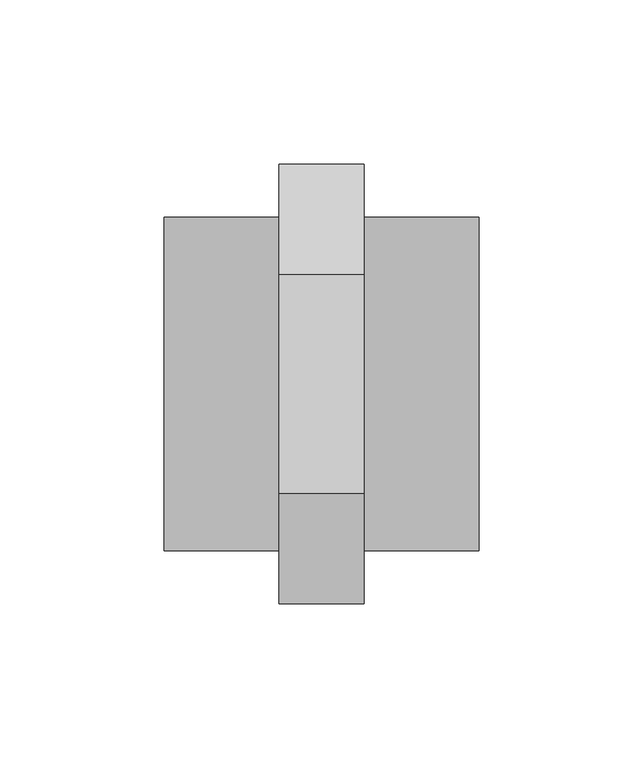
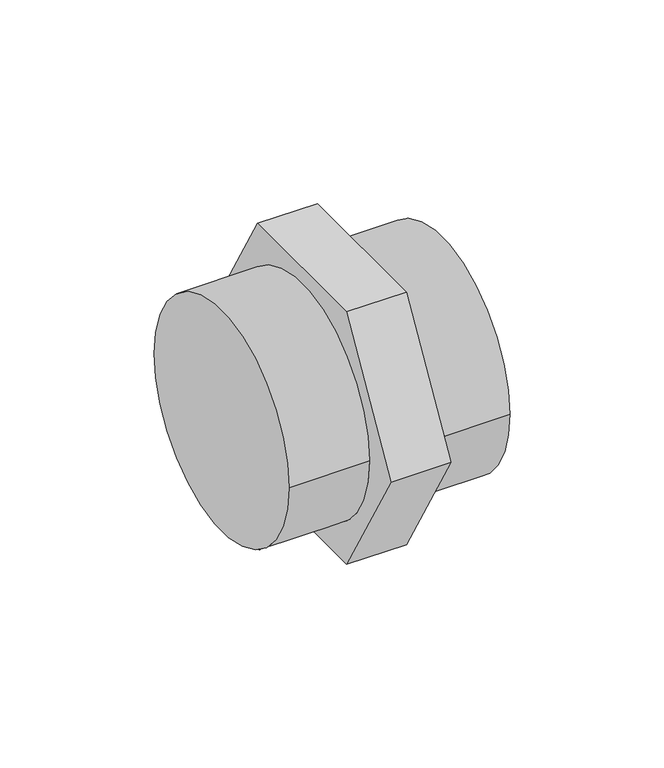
"""IFC4 building model written with IfcOpenShell, lengths in millimetres: pipe fitting geometry, 01011009 : Machones doble rosca."""

from ifc_helpers import new_model, si_unit, frame, origin, place, context, project, spatial, circle_curve, source, transform, mapped, element, save
from ifc_brep_helpers import plane_surface, cylinder_surface, advanced_brep


def pipe_fitting_c3b5256f(model_context):
    return source(origin(), model_context, "Body", "AdvancedBrep", [
        advanced_brep(
        [(13.0, -33.4863156, 58.0), (13.0, -66.9726312, 0.0), (13.0, -33.4863156, -58.0), (13.0, 33.4863156, -58.0), (13.0, 66.9726312, 0.0), (13.0, 33.4863156, 58.0), (13.0, -50.8, 0.0), (13.0, 50.8, 0.0), (-13.0, -33.4863156, 58.0), (-13.0, 33.4863156, 58.0), (-13.0, 66.9726312, 0.0), (-13.0, 33.4863156, -58.0), (-13.0, -33.4863156, -58.0), (-13.0, -66.9726312, 0.0), (-13.0, 50.8, 0.0), (-13.0, -50.8, 0.0), (-48.0, -50.8, 0.0), (-48.0, 50.8, 0.0), (48.0, -50.8, 0.0), (48.0, 50.8, 0.0)],
        [
            (0, 1),
            (1, 2),
            (2, 3),
            (3, 4),
            (4, 5),
            (5, 0),
            (6, 7, circle_curve(frame((13.0, 0.0, 0.0), z_axis=(-1.0, 0.0, 0.0), x_axis=(0.0, 1.0, 0.0)), 50.8)),
            (7, 6, circle_curve(frame((13.0, 0.0, 0.0), z_axis=(-1.0, 0.0, 0.0), x_axis=(0.0, 1.0, 0.0)), 50.8)),
            (8, 9),
            (9, 10),
            (10, 11),
            (11, 12),
            (12, 13),
            (13, 8),
            (14, 15, circle_curve(frame((-13.0, 0.0, 0.0), z_axis=(1.0, 0.0, 0.0), x_axis=(0.0, 1.0, 0.0)), 50.8)),
            (15, 14, circle_curve(frame((-13.0, 0.0, 0.0), z_axis=(1.0, 0.0, 0.0), x_axis=(0.0, 1.0, 0.0)), 50.8)),
            (0, 8),
            (13, 1),
            (12, 2),
            (11, 3),
            (10, 4),
            (9, 5),
            (16, 17, circle_curve(frame((-48.0, 0.0, 0.0), z_axis=(-1.0, 0.0, 0.0), x_axis=(0.0, 1.0, 0.0)), 50.8)),
            (17, 16, circle_curve(frame((-48.0, 0.0, 0.0), z_axis=(-1.0, 0.0, 0.0), x_axis=(0.0, 1.0, 0.0)), 50.8)),
            (18, 19, circle_curve(frame((48.0, 0.0, 0.0), z_axis=(1.0, 0.0, 0.0), x_axis=(0.0, 1.0, 0.0)), 50.8)),
            (19, 18, circle_curve(frame((48.0, 0.0, 0.0), z_axis=(1.0, 0.0, 0.0), x_axis=(0.0, 1.0, 0.0)), 50.8)),
            (16, 15),
            (14, 17),
            (19, 7),
            (6, 18),
        ],
        [
            plane_surface(frame((13.0, -33.4863156, 58.0), z_axis=(1.0, 0.0, 0.0), x_axis=(0.0, -0.5000000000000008, -0.8660254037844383))),
            plane_surface(frame((-13.0, -33.4863156, 58.0), z_axis=(-1.0, 0.0, 0.0), x_axis=(0.0, 0.5000000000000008, 0.8660254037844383))),
            plane_surface(frame((13.0, -33.4863156, 58.0), z_axis=(0.0, -0.8660254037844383, 0.5000000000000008), x_axis=(-1.0, 0.0, 0.0))),
            plane_surface(frame((13.0, -66.9726312, 0.0), z_axis=(0.0, -0.8660254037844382, -0.500000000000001), x_axis=(-1.0, 0.0, 0.0))),
            plane_surface(frame((13.0, -33.4863156, -58.0), z_axis=(0.0, 0.0, -1.0), x_axis=(-1.0, 0.0, 0.0))),
            plane_surface(frame((13.0, 33.4863156, -58.0), z_axis=(0.0, 0.8660254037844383, -0.5000000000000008), x_axis=(-1.0, 0.0, 0.0))),
            plane_surface(frame((13.0, 66.9726312, 0.0), z_axis=(0.0, 0.8660254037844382, 0.500000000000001), x_axis=(-1.0, 0.0, 0.0))),
            plane_surface(frame((13.0, 33.4863156, 58.0), z_axis=(0.0, 0.0, 1.0), x_axis=(-1.0, 0.0, 0.0))),
            plane_surface(frame((-48.0, 0.0, 0.0), z_axis=(-1.0, 0.0, 0.0), x_axis=(0.0, 0.0, 1.0))),
            plane_surface(frame((48.0, 0.0, 0.0), z_axis=(1.0, 0.0, 0.0), x_axis=(0.0, 0.0, 1.0))),
            cylinder_surface(frame((-48.0, 0.0, 0.0), z_axis=(-1.0, 0.0, 0.0), x_axis=(0.0, 1.0, 0.0)), 50.8),
        ],
        [
            (0, [[1, 2, 3, 4, 5, 6], [7, 8]]),
            (1, [[9, 10, 11, 12, 13, 14], [15, 16]]),
            (2, [[-1, 17, -14, 18]]),
            (3, [[-2, -18, -13, 19]]),
            (4, [[-3, -19, -12, 20]]),
            (5, [[-4, -20, -11, 21]]),
            (6, [[-5, -21, -10, 22]]),
            (7, [[-6, -22, -9, -17]]),
            (8, [[23, 24]]),
            (9, [[25, 26]]),
            (10, [[-23, 27, -15, 28]]),
            (10, [[-26, 29, -7, 30]]),
            (10, [[-24, -28, -16, -27]]),
            (10, [[-25, -30, -8, -29]]),
        ],
    ),
    ])


if __name__ == "__main__":
    model = new_model("IFC4")
    model_context = context("Model", 3, world=origin())
    ifc_project = project(units=[si_unit("LENGTHUNIT", "METRE", prefix="MILLI")], contexts=[model_context])
    site = spatial("IfcSite", under=ifc_project)
    building = spatial("IfcBuilding", under=site)
    placement = place(None, origin())
    pipe_fitting_shape = pipe_fitting_c3b5256f(model_context)
    element("IfcPipeFitting", 1, ObjectType="01011009 : Machones doble rosca", at=placement, inside=building, context=model_context, shape_type="MappedRepresentation", body=[
        mapped(pipe_fitting_shape, transform((0.0, 0.0, 0.0), x_axis=(1.0, 0.0, 0.0), y_axis=(0.0, 1.0, 0.0), z_axis=(0.0, 0.0, 1.0))),
    ])
    save(model, "model.ifc")
